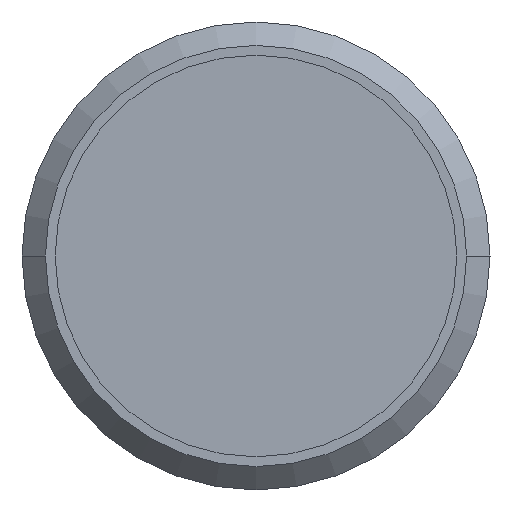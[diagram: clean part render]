
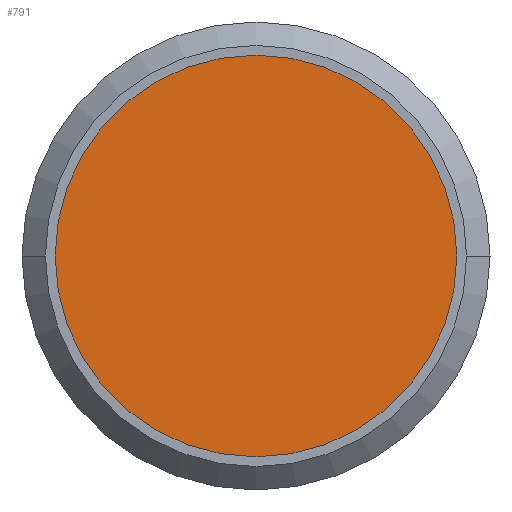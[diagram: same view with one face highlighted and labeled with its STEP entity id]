
A CAD part, left-side view. The second image highlights one B-rep face of the part: STEP entity #791.
In plain terms, the highlighted planar face has unit normal (-1, 0, 0).
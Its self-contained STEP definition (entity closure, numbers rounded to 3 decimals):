
#52=CARTESIAN_POINT('',(-6.571,0.,0.));
#53=DIRECTION('',(-1.,0.,0.));
#54=DIRECTION('',(0.,-1.,0.));
#55=AXIS2_PLACEMENT_3D('',#52,#53,#54);
#61=CARTESIAN_POINT('',(-6.571,0.,0.));
#62=DIRECTION('',(1.,0.,0.));
#63=DIRECTION('',(0.,-1.,0.));
#64=AXIS2_PLACEMENT_3D('',#61,#62,#63);
#628=CARTESIAN_POINT('',(-6.571,-5.15,0.));
#630=VERTEX_POINT('',#628);
#668=CARTESIAN_POINT('',(-6.571,5.15,0.));
#670=VERTEX_POINT('',#668);
#780=CARTESIAN_POINT('',(-6.571,0.,0.));
#781=DIRECTION('',(1.,0.,0.));
#782=DIRECTION('',(0.,-1.,0.));
#783=AXIS2_PLACEMENT_3D('',#780,#781,#782);
#784=PLANE('',#783);
#786=ORIENTED_EDGE('',*,*,#785,.F.);
#788=ORIENTED_EDGE('',*,*,#787,.T.);
#789=EDGE_LOOP('',(#786,#788));
#790=FACE_OUTER_BOUND('',#789,.F.);
#56=CIRCLE('',#55,5.15);
#65=CIRCLE('',#64,5.15);
#785=EDGE_CURVE('',#630,#670,#56,.T.);
#787=EDGE_CURVE('',#630,#670,#65,.T.);
#791=ADVANCED_FACE('',(#790),#784,.F.);
